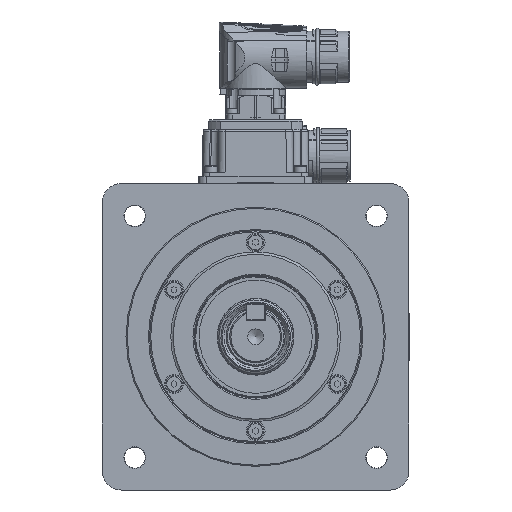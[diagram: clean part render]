
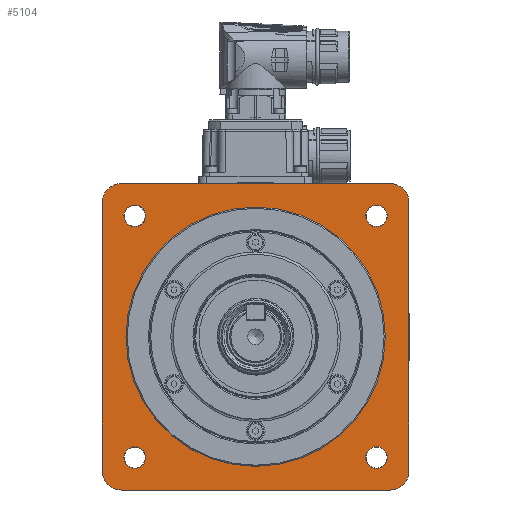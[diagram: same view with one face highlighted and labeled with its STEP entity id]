
A CAD part, front view. The second image highlights one B-rep face of the part: STEP entity #5104.
In plain terms, the highlighted planar face has unit normal (0, -1, 0).
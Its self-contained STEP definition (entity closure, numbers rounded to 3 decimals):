
#5104 = ADVANCED_FACE( '', ( #11947, #11948, #11949, #11950, #11951, #11952 ), #11953, .F. );
#11947 = FACE_BOUND( '', #27340, .T. );
#11948 = FACE_OUTER_BOUND( '', #27341, .T. );
#11949 = FACE_BOUND( '', #27342, .T. );
#11950 = FACE_BOUND( '', #27343, .T. );
#11951 = FACE_BOUND( '', #27344, .T. );
#11952 = FACE_BOUND( '', #27345, .T. );
#11953 = PLANE( '', #27346 );
#27340 = EDGE_LOOP( '', ( #48549 ) );
#27341 = EDGE_LOOP( '', ( #48550, #48551, #48552, #48553, #48554, #48555, #48556, #48557 ) );
#27342 = EDGE_LOOP( '', ( #48558 ) );
#27343 = EDGE_LOOP( '', ( #48559 ) );
#27344 = EDGE_LOOP( '', ( #48560 ) );
#27345 = EDGE_LOOP( '', ( #48561 ) );
#27346 = AXIS2_PLACEMENT_3D( '', #48562, #48563, #48564 );
#48549 = ORIENTED_EDGE( '', *, *, #63729, .F. );
#48550 = ORIENTED_EDGE( '', *, *, #65331, .F. );
#48551 = ORIENTED_EDGE( '', *, *, #65951, .T. );
#48552 = ORIENTED_EDGE( '', *, *, #65952, .F. );
#48553 = ORIENTED_EDGE( '', *, *, #62387, .T. );
#48554 = ORIENTED_EDGE( '', *, *, #65953, .F. );
#48555 = ORIENTED_EDGE( '', *, *, #65954, .T. );
#48556 = ORIENTED_EDGE( '', *, *, #61739, .F. );
#48557 = ORIENTED_EDGE( '', *, *, #65955, .T. );
#48558 = ORIENTED_EDGE( '', *, *, #60845, .F. );
#48559 = ORIENTED_EDGE( '', *, *, #65956, .F. );
#48560 = ORIENTED_EDGE( '', *, *, #65957, .F. );
#48561 = ORIENTED_EDGE( '', *, *, #65958, .F. );
#48562 = CARTESIAN_POINT( '', ( 0., -8.91, 55. ) );
#48563 = DIRECTION( '', ( 0., 1., 0. ) );
#48564 = DIRECTION( '', ( 0., 0., 1. ) );
#60845 = EDGE_CURVE( '', #70723, #70723, #70724, .F. );
#61739 = EDGE_CURVE( '', #72337, #72340, #72341, .F. );
#62387 = EDGE_CURVE( '', #73426, #73424, #73427, .T. );
#63729 = EDGE_CURVE( '', #75596, #75596, #75597, .T. );
#65331 = EDGE_CURVE( '', #77956, #77959, #77960, .F. );
#65951 = EDGE_CURVE( '', #77956, #78805, #78806, .T. );
#65952 = EDGE_CURVE( '', #73426, #78805, #78807, .F. );
#65953 = EDGE_CURVE( '', #78808, #73424, #78809, .F. );
#65954 = EDGE_CURVE( '', #78808, #72340, #78810, .T. );
#65955 = EDGE_CURVE( '', #72337, #77959, #78811, .T. );
#65956 = EDGE_CURVE( '', #78812, #78812, #78813, .F. );
#65957 = EDGE_CURVE( '', #78814, #78814, #78815, .F. );
#65958 = EDGE_CURVE( '', #78816, #78816, #78817, .F. );
#70723 = VERTEX_POINT( '', #86682 );
#70724 = CIRCLE( '', #86683, 4.6 );
#72337 = VERTEX_POINT( '', #90136 );
#72340 = VERTEX_POINT( '', #90140 );
#72341 = CIRCLE( '', #90141, 8. );
#73424 = VERTEX_POINT( '', #92791 );
#73426 = VERTEX_POINT( '', #92794 );
#73427 = LINE( '', #92795, #92796 );
#75596 = VERTEX_POINT( '', #97536 );
#75597 = CIRCLE( '', #97537, 55. );
#77956 = VERTEX_POINT( '', #102809 );
#77959 = VERTEX_POINT( '', #102813 );
#77960 = CIRCLE( '', #102814, 8. );
#78805 = VERTEX_POINT( '', #104947 );
#78806 = LINE( '', #104948, #104949 );
#78807 = CIRCLE( '', #104950, 8. );
#78808 = VERTEX_POINT( '', #104951 );
#78809 = CIRCLE( '', #104952, 8. );
#78810 = LINE( '', #104953, #104954 );
#78811 = LINE( '', #104955, #104956 );
#78812 = VERTEX_POINT( '', #104957 );
#78813 = CIRCLE( '', #104958, 4.6 );
#78814 = VERTEX_POINT( '', #104959 );
#78815 = CIRCLE( '', #104960, 4.6 );
#78816 = VERTEX_POINT( '', #104961 );
#78817 = CIRCLE( '', #104962, 4.6 );
#86682 = CARTESIAN_POINT( '', ( -51.265, -8.91, 55.866 ) );
#86683 = AXIS2_PLACEMENT_3D( '', #113910, #113911, #113912 );
#90136 = CARTESIAN_POINT( '', ( 57., -8.91, 65. ) );
#90140 = CARTESIAN_POINT( '', ( 65., -8.91, 57. ) );
#90141 = AXIS2_PLACEMENT_3D( '', #115023, #115024, #115025 );
#92791 = CARTESIAN_POINT( '', ( 57., -8.91, -65. ) );
#92794 = CARTESIAN_POINT( '', ( -57., -8.91, -65. ) );
#92795 = CARTESIAN_POINT( '', ( -65., -8.91, -65. ) );
#92796 = VECTOR( '', #115873, 1000. );
#97536 = CARTESIAN_POINT( '', ( 0., -8.91, -55. ) );
#97537 = AXIS2_PLACEMENT_3D( '', #117529, #117530, #117531 );
#102809 = CARTESIAN_POINT( '', ( -65., -8.91, 57. ) );
#102813 = CARTESIAN_POINT( '', ( -57., -8.91, 65. ) );
#102814 = AXIS2_PLACEMENT_3D( '', #119433, #119434, #119435 );
#104947 = CARTESIAN_POINT( '', ( -65., -8.91, -57. ) );
#104948 = CARTESIAN_POINT( '', ( -65., -8.91, 65. ) );
#104949 = VECTOR( '', #120087, 1000. );
#104950 = AXIS2_PLACEMENT_3D( '', #120088, #120089, #120090 );
#104951 = CARTESIAN_POINT( '', ( 65., -8.91, -57. ) );
#104952 = AXIS2_PLACEMENT_3D( '', #120091, #120092, #120093 );
#104953 = CARTESIAN_POINT( '', ( 65., -8.91, -65. ) );
#104954 = VECTOR( '', #120094, 1000. );
#104955 = CARTESIAN_POINT( '', ( 65., -8.91, 65. ) );
#104956 = VECTOR( '', #120095, 1000. );
#104957 = CARTESIAN_POINT( '', ( -51.265, -8.91, -46.665 ) );
#104958 = AXIS2_PLACEMENT_3D( '', #120096, #120097, #120098 );
#104959 = CARTESIAN_POINT( '', ( 51.265, -8.91, -46.665 ) );
#104960 = AXIS2_PLACEMENT_3D( '', #120099, #120100, #120101 );
#104961 = CARTESIAN_POINT( '', ( 51.265, -8.91, 55.866 ) );
#104962 = AXIS2_PLACEMENT_3D( '', #120102, #120103, #120104 );
#113910 = CARTESIAN_POINT( '', ( -51.265, -8.91, 51.265 ) );
#113911 = DIRECTION( '', ( 0., 1., 0. ) );
#113912 = DIRECTION( '', ( 0., 0., 1. ) );
#115023 = CARTESIAN_POINT( '', ( 57., -8.91, 57. ) );
#115024 = DIRECTION( '', ( 0., -1., 0. ) );
#115025 = DIRECTION( '', ( 0., 0., -1. ) );
#115873 = DIRECTION( '', ( 1., 0., 0. ) );
#117529 = CARTESIAN_POINT( '', ( 0., -8.91, 0. ) );
#117530 = DIRECTION( '', ( 0., -1., 0. ) );
#117531 = DIRECTION( '', ( 0., 0., -1. ) );
#119433 = CARTESIAN_POINT( '', ( -57., -8.91, 57. ) );
#119434 = DIRECTION( '', ( 0., -1., 0. ) );
#119435 = DIRECTION( '', ( 0., 0., -1. ) );
#120087 = DIRECTION( '', ( 0., 0., -1. ) );
#120088 = CARTESIAN_POINT( '', ( -57., -8.91, -57. ) );
#120089 = DIRECTION( '', ( 0., -1., 0. ) );
#120090 = DIRECTION( '', ( 0., 0., -1. ) );
#120091 = CARTESIAN_POINT( '', ( 57., -8.91, -57. ) );
#120092 = DIRECTION( '', ( 0., -1., 0. ) );
#120093 = DIRECTION( '', ( 0., 0., -1. ) );
#120094 = DIRECTION( '', ( 0., 0., 1. ) );
#120095 = DIRECTION( '', ( -1., 0., 0. ) );
#120096 = CARTESIAN_POINT( '', ( -51.265, -8.91, -51.265 ) );
#120097 = DIRECTION( '', ( 0., 1., 0. ) );
#120098 = DIRECTION( '', ( 0., 0., 1. ) );
#120099 = CARTESIAN_POINT( '', ( 51.265, -8.91, -51.265 ) );
#120100 = DIRECTION( '', ( 0., 1., 0. ) );
#120101 = DIRECTION( '', ( 0., 0., 1. ) );
#120102 = CARTESIAN_POINT( '', ( 51.265, -8.91, 51.265 ) );
#120103 = DIRECTION( '', ( 0., 1., 0. ) );
#120104 = DIRECTION( '', ( 0., 0., 1. ) );
